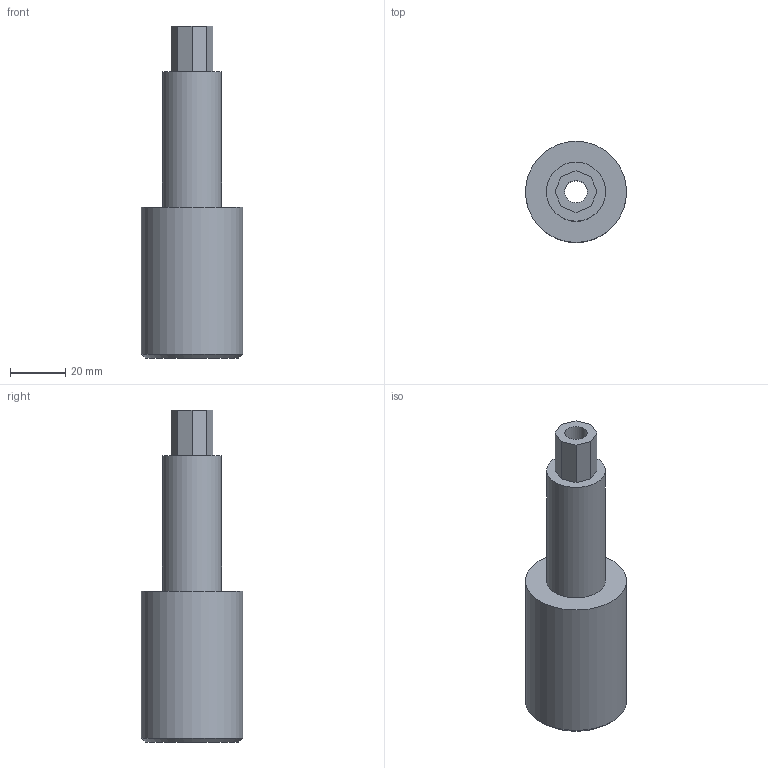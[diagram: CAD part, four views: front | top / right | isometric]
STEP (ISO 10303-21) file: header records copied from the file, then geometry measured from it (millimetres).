
FILE_DESCRIPTION(('Mechanical CAD reference from nasji.com'),'2;1');
FILE_NAME('NASJI.step','',(''),(''),'','NASJI distribution','');
FILE_SCHEMA(('AUTOMOTIVE_DESIGN { 1 0 10303 214 1 1 1 1 }'));
Length unit declared in the file: millimetre
Products named in the file (1): Open CASCADE STEP translator 7.8 152
Bounding box: 36.63 x 36.63 x 120.3 mm (x, y, z)
Volume: 71662.1 mm3; surface area: 15320.2 mm2
Topology: 1 solids, 1 shells, 17 faces, 37 edges, 24 vertices
Faces by surface type: plane 12, cylinder 3, cone 2
Full cylindrical faces by diameter (mm): 8.1 x1, 21.4 x1, 36.63 x1
Entity records: 960 total; most frequent: CARTESIAN_POINT 169, DIRECTION 149, LINE 93, VECTOR 93, ORIENTED_EDGE 74, PCURVE 74, DEFINITIONAL_REPRESENTATION 74, EDGE_CURVE 37
